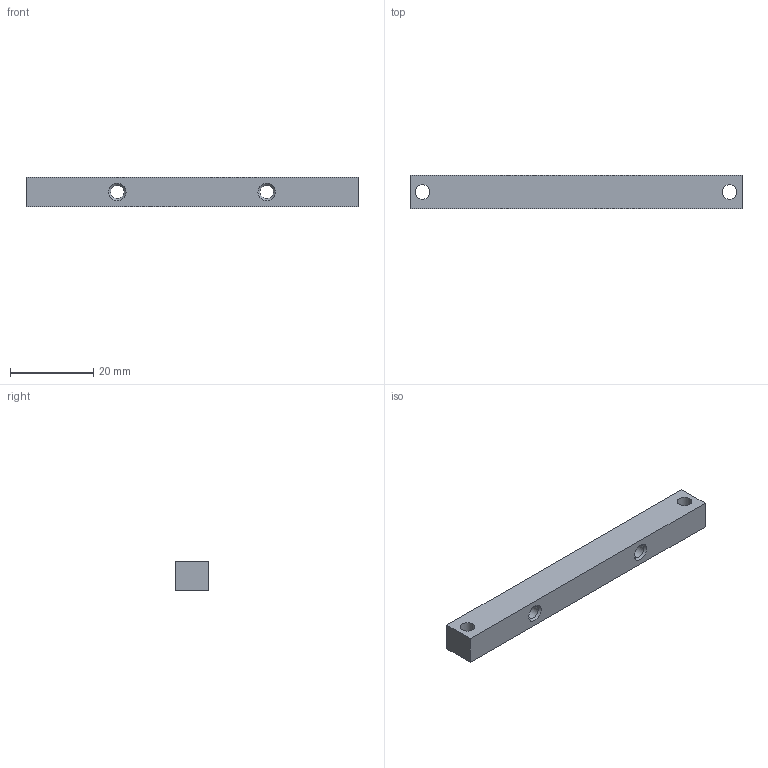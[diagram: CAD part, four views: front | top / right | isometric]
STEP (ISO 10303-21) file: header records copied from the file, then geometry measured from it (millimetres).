
FILE_DESCRIPTION(('STEP AP203'), '1');
FILE_NAME('ÒÏÏÔ1801.01.12.01.005 - Ôèêñàòîð ëåíòû', '', ('UNSPECIFIED'), ('UNSPECIFIED'), 'C3D Converter', 'C3D Toolkit', '');
FILE_SCHEMA(('CONFIG_CONTROL_DESIGN'));
Length unit declared in the file: millimetre
Products named in the file (1): ТППФ1801.01.12.01.005
Bounding box: 80 x 8 x 7 mm (x, y, z)
Volume: 4210.4 mm3; surface area: 2752.1 mm2
Topology: 1 solids, 1 shells, 12 faces, 28 edges, 18 vertices
Faces by surface type: plane 6, cylinder 4, cone 2
Full cylindrical faces by diameter (mm): 3.242 x2, 3.5 x2
Entity records: 468 total; most frequent: DIRECTION 58, CARTESIAN_POINT 53, ORIENTED_EDGE 44, EDGE_LOOP 26, AXIS2_PLACEMENT_3D 23, EDGE_CURVE 22, VERTEX_POINT 18, FACE_BOUND 14
